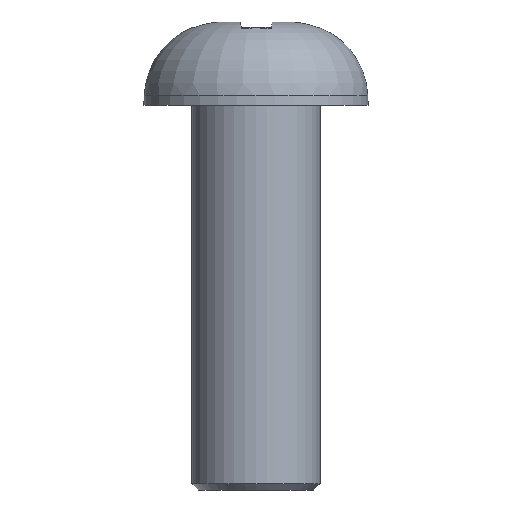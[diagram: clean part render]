
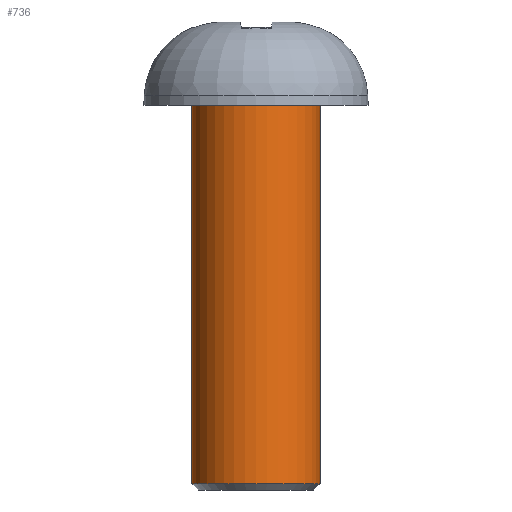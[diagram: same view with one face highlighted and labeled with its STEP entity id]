
A CAD part, front view. The second image highlights one B-rep face of the part: STEP entity #736.
In plain terms, the highlighted cylindrical face has radius 1 mm (diameter 2 mm), a partial arc.
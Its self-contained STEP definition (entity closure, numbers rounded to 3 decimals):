
#48 = CARTESIAN_POINT ( 'NONE',  ( 1., 0., -5.9 ) ) ;
#54 = DIRECTION ( 'NONE',  ( 0., 0., 1. ) ) ;
#81 = CARTESIAN_POINT ( 'NONE',  ( 1., 0., -6. ) ) ;
#98 = CIRCLE ( 'NONE', #208, 1. ) ;
#129 = DIRECTION ( 'NONE',  ( 1., 0., 0. ) ) ;
#208 = AXIS2_PLACEMENT_3D ( 'NONE', #681, #268, #878 ) ;
#245 = ORIENTED_EDGE ( 'NONE', *, *, #295, .F. ) ;
#268 = DIRECTION ( 'NONE',  ( 0., 0., 1. ) ) ;
#274 = CARTESIAN_POINT ( 'NONE',  ( 0., 0., 0. ) ) ;
#295 = EDGE_CURVE ( 'NONE', #771, #483, #427, .T. ) ;
#299 = EDGE_CURVE ( 'NONE', #483, #525, #397, .T. ) ;
#315 = LINE ( 'NONE', #81, #901 ) ;
#322 = EDGE_LOOP ( 'NONE', ( #245, #546, #605, #950 ) ) ;
#343 = VERTEX_POINT ( 'NONE', #48 ) ;
#346 = CARTESIAN_POINT ( 'NONE',  ( 1., 0., 0. ) ) ;
#370 = CARTESIAN_POINT ( 'NONE',  ( -1., 0., -5.9 ) ) ;
#384 = DIRECTION ( 'NONE',  ( 0., 0., 1. ) ) ;
#390 = CARTESIAN_POINT ( 'NONE',  ( 0., 0., -6. ) ) ;
#397 = CIRCLE ( 'NONE', #961, 1. ) ;
#427 = LINE ( 'NONE', #740, #654 ) ;
#433 = DIRECTION ( 'NONE',  ( 0., 0., 1. ) ) ;
#474 = CYLINDRICAL_SURFACE ( 'NONE', #720, 1. ) ;
#483 = VERTEX_POINT ( 'NONE', #485 ) ;
#485 = CARTESIAN_POINT ( 'NONE',  ( -1., 0., 0. ) ) ;
#525 = VERTEX_POINT ( 'NONE', #346 ) ;
#546 = ORIENTED_EDGE ( 'NONE', *, *, #564, .T. ) ;
#564 = EDGE_CURVE ( 'NONE', #771, #343, #98, .T. ) ;
#605 = ORIENTED_EDGE ( 'NONE', *, *, #704, .T. ) ;
#654 = VECTOR ( 'NONE', #54, 1000. ) ;
#670 = DIRECTION ( 'NONE',  ( 1., 0., 0. ) ) ;
#681 = CARTESIAN_POINT ( 'NONE',  ( 0., 0., -5.9 ) ) ;
#704 = EDGE_CURVE ( 'NONE', #343, #525, #315, .T. ) ;
#720 = AXIS2_PLACEMENT_3D ( 'NONE', #390, #384, #670 ) ;
#736 = ADVANCED_FACE ( 'NONE', ( #912 ), #474, .T. ) ;
#740 = CARTESIAN_POINT ( 'NONE',  ( -1., 0., -6. ) ) ;
#771 = VERTEX_POINT ( 'NONE', #370 ) ;
#878 = DIRECTION ( 'NONE',  ( 1., 0., 0. ) ) ;
#901 = VECTOR ( 'NONE', #905, 1000. ) ;
#905 = DIRECTION ( 'NONE',  ( 0., 0., 1. ) ) ;
#912 = FACE_OUTER_BOUND ( 'NONE', #322, .T. ) ;
#950 = ORIENTED_EDGE ( 'NONE', *, *, #299, .F. ) ;
#961 = AXIS2_PLACEMENT_3D ( 'NONE', #274, #433, #129 ) ;
